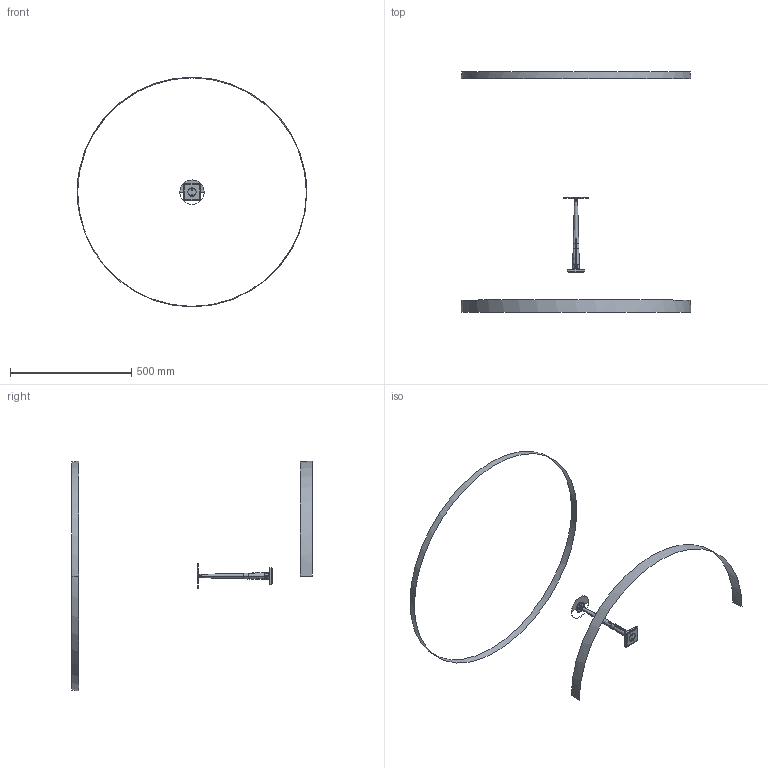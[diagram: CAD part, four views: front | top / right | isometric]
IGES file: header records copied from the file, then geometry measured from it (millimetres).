
Start section: SolidWorks IGES file using analytic representation for surfaces
Global section: file name: N:\- Ingeneria\DISEGNI\PRODOTTI\PORTOFINO\800PORLWW111_PORTOFINO.IGS; native system: SolidWorks 2016; preprocessor: SolidWorks 2016; author: BenedettoLiVolsi; date: 230704.154338; units: millimetre
Bounding box: 946.05 x 989.05 x 945.44 mm (x, y, z)
Surface area: 231362.7 mm2 (no closed solid volume)
Topology: 0 solids, 0 shells, 1119 faces, 14667 edges, 14660 vertices
Faces by surface type: bspline 924, revolution 195
